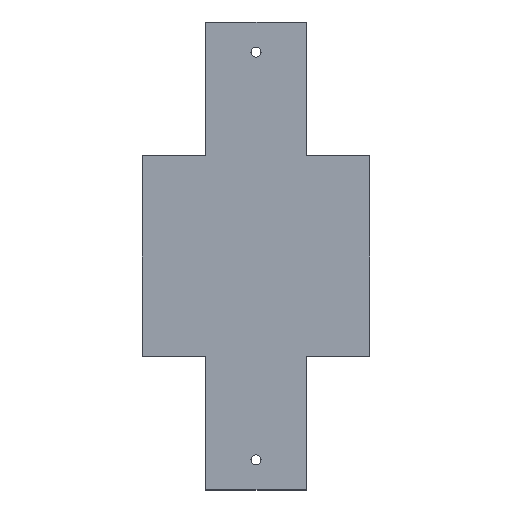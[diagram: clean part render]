
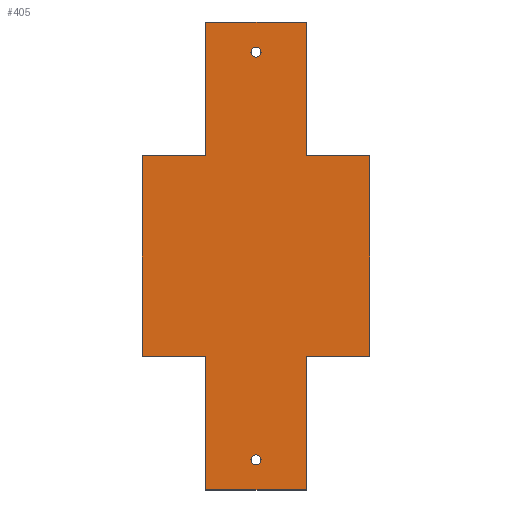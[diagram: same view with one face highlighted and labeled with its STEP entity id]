
A CAD part, top view. The second image highlights one B-rep face of the part: STEP entity #405.
In plain terms, the highlighted planar face has unit normal (0, 0, 1).
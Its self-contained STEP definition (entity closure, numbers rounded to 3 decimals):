
#1 = VERTEX_POINT ( 'NONE', #196 ) ;
#4 = EDGE_CURVE ( 'NONE', #585, #68, #584, .T. ) ;
#7 = FACE_BOUND ( 'NONE', #559, .T. ) ;
#15 = DIRECTION ( 'NONE',  ( 0., -1., 0. ) ) ;
#18 = VERTEX_POINT ( 'NONE', #580 ) ;
#21 = ORIENTED_EDGE ( 'NONE', *, *, #552, .F. ) ;
#22 = LINE ( 'NONE', #73, #464 ) ;
#25 = VERTEX_POINT ( 'NONE', #136 ) ;
#27 = EDGE_CURVE ( 'NONE', #590, #402, #442, .T. ) ;
#28 = DIRECTION ( 'NONE',  ( 1., 0., 0. ) ) ;
#48 = VERTEX_POINT ( 'NONE', #253 ) ;
#49 = FACE_BOUND ( 'NONE', #366, .T. ) ;
#52 = VECTOR ( 'NONE', #74, 1000. ) ;
#54 = PLANE ( 'NONE',  #182 ) ;
#56 = EDGE_LOOP ( 'NONE', ( #644, #351, #214, #648, #592, #494, #341, #103, #543, #386, #21, #539 ) ) ;
#61 = DIRECTION ( 'NONE',  ( 1., 0., 0. ) ) ;
#62 = VECTOR ( 'NONE', #634, 1000. ) ;
#64 = DIRECTION ( 'NONE',  ( 0., -1., 0. ) ) ;
#68 = VERTEX_POINT ( 'NONE', #203 ) ;
#69 = CARTESIAN_POINT ( 'NONE',  ( -7.5, -35., 0.13 ) ) ;
#70 = DIRECTION ( 'NONE',  ( 0., -1., 0. ) ) ;
#73 = CARTESIAN_POINT ( 'NONE',  ( 7.5, 35., 0.13 ) ) ;
#74 = DIRECTION ( 'NONE',  ( -1., 0., 0. ) ) ;
#81 = CARTESIAN_POINT ( 'NONE',  ( 7.5, -35., 0.13 ) ) ;
#89 = EDGE_CURVE ( 'NONE', #402, #338, #261, .T. ) ;
#94 = VERTEX_POINT ( 'NONE', #401 ) ;
#100 = CIRCLE ( 'NONE', #165, 0.75 ) ;
#101 = AXIS2_PLACEMENT_3D ( 'NONE', #560, #564, #221 ) ;
#103 = ORIENTED_EDGE ( 'NONE', *, *, #27, .F. ) ;
#104 = CARTESIAN_POINT ( 'NONE',  ( 7.5, 35., 0.13 ) ) ;
#107 = DIRECTION ( 'NONE',  ( -1., 0., 0. ) ) ;
#124 = CARTESIAN_POINT ( 'NONE',  ( 0., 30.5, 0.13 ) ) ;
#129 = EDGE_CURVE ( 'NONE', #390, #25, #100, .T. ) ;
#136 = CARTESIAN_POINT ( 'NONE',  ( 0.75, 30.5, 0.13 ) ) ;
#139 = CARTESIAN_POINT ( 'NONE',  ( -38., 35., 0.13 ) ) ;
#147 = DIRECTION ( 'NONE',  ( 0., 1., 0. ) ) ;
#149 = CARTESIAN_POINT ( 'NONE',  ( -17., -15., 0.13 ) ) ;
#152 = DIRECTION ( 'NONE',  ( 1., 0., 0. ) ) ;
#164 = CARTESIAN_POINT ( 'NONE',  ( 0., 30.5, 0.13 ) ) ;
#165 = AXIS2_PLACEMENT_3D ( 'NONE', #164, #300, #61 ) ;
#179 = DIRECTION ( 'NONE',  ( 1., 0., 0. ) ) ;
#182 = AXIS2_PLACEMENT_3D ( 'NONE', #484, #349, #544 ) ;
#185 = ORIENTED_EDGE ( 'NONE', *, *, #396, .F. ) ;
#190 = LINE ( 'NONE', #337, #489 ) ;
#196 = CARTESIAN_POINT ( 'NONE',  ( -0.75, -30.5, 0.13 ) ) ;
#201 = VERTEX_POINT ( 'NONE', #227 ) ;
#203 = CARTESIAN_POINT ( 'NONE',  ( -7.5, -15., 0.13 ) ) ;
#214 = ORIENTED_EDGE ( 'NONE', *, *, #485, .F. ) ;
#221 = DIRECTION ( 'NONE',  ( -1., 0., 0. ) ) ;
#223 = CARTESIAN_POINT ( 'NONE',  ( -7.5, 35., 0.13 ) ) ;
#226 = VECTOR ( 'NONE', #540, 1000. ) ;
#227 = CARTESIAN_POINT ( 'NONE',  ( -17., 15., 0.13 ) ) ;
#232 = VECTOR ( 'NONE', #64, 1000. ) ;
#235 = VECTOR ( 'NONE', #147, 1000. ) ;
#236 = CARTESIAN_POINT ( 'NONE',  ( 17., -15., 0.13 ) ) ;
#253 = CARTESIAN_POINT ( 'NONE',  ( 17., 15., 0.13 ) ) ;
#261 = LINE ( 'NONE', #551, #441 ) ;
#269 = VERTEX_POINT ( 'NONE', #426 ) ;
#289 = EDGE_CURVE ( 'NONE', #455, #269, #435, .T. ) ;
#291 = FACE_OUTER_BOUND ( 'NONE', #56, .T. ) ;
#293 = ORIENTED_EDGE ( 'NONE', *, *, #572, .F. ) ;
#296 = CIRCLE ( 'NONE', #101, 0.75 ) ;
#300 = DIRECTION ( 'NONE',  ( 0., 0., 1. ) ) ;
#314 = LINE ( 'NONE', #223, #577 ) ;
#330 = EDGE_CURVE ( 'NONE', #535, #48, #190, .T. ) ;
#337 = CARTESIAN_POINT ( 'NONE',  ( 17., 15., 0.13 ) ) ;
#338 = VERTEX_POINT ( 'NONE', #81 ) ;
#341 = ORIENTED_EDGE ( 'NONE', *, *, #89, .F. ) ;
#349 = DIRECTION ( 'NONE',  ( 0., 0., 1. ) ) ;
#351 = ORIENTED_EDGE ( 'NONE', *, *, #471, .F. ) ;
#365 = EDGE_CURVE ( 'NONE', #68, #94, #473, .T. ) ;
#366 = EDGE_LOOP ( 'NONE', ( #293, #185 ) ) ;
#374 = CARTESIAN_POINT ( 'NONE',  ( -17., -15., 0.13 ) ) ;
#385 = CARTESIAN_POINT ( 'NONE',  ( -7.5, -35., 0.13 ) ) ;
#386 = ORIENTED_EDGE ( 'NONE', *, *, #330, .F. ) ;
#388 = LINE ( 'NONE', #591, #226 ) ;
#390 = VERTEX_POINT ( 'NONE', #606 ) ;
#395 = CARTESIAN_POINT ( 'NONE',  ( 0., -30.5, 0.13 ) ) ;
#396 = EDGE_CURVE ( 'NONE', #1, #593, #470, .T. ) ;
#399 = CARTESIAN_POINT ( 'NONE',  ( 7.5, -15., 0.13 ) ) ;
#401 = CARTESIAN_POINT ( 'NONE',  ( -17., -15., 0.13 ) ) ;
#402 = VERTEX_POINT ( 'NONE', #399 ) ;
#405 = ADVANCED_FACE ( 'NONE', ( #7, #49, #291 ), #54, .T. ) ;
#419 = LINE ( 'NONE', #624, #232 ) ;
#426 = CARTESIAN_POINT ( 'NONE',  ( -7.5, 35., 0.13 ) ) ;
#435 = LINE ( 'NONE', #139, #62 ) ;
#438 = DIRECTION ( 'NONE',  ( 0., 0., 1. ) ) ;
#441 = VECTOR ( 'NONE', #70, 1000. ) ;
#442 = LINE ( 'NONE', #236, #561 ) ;
#447 = DIRECTION ( 'NONE',  ( 0., 1., 0. ) ) ;
#455 = VERTEX_POINT ( 'NONE', #104 ) ;
#456 = CARTESIAN_POINT ( 'NONE',  ( 17., -15., 0.13 ) ) ;
#462 = AXIS2_PLACEMENT_3D ( 'NONE', #395, #438, #107 ) ;
#464 = VECTOR ( 'NONE', #15, 1000. ) ;
#465 = ORIENTED_EDGE ( 'NONE', *, *, #129, .F. ) ;
#467 = DIRECTION ( 'NONE',  ( 0., 0., 1. ) ) ;
#470 = CIRCLE ( 'NONE', #462, 0.75 ) ;
#471 = EDGE_CURVE ( 'NONE', #201, #18, #388, .T. ) ;
#473 = LINE ( 'NONE', #374, #52 ) ;
#478 = EDGE_CURVE ( 'NONE', #585, #338, #594, .T. ) ;
#484 = CARTESIAN_POINT ( 'NONE',  ( 0., 0., 0.13 ) ) ;
#485 = EDGE_CURVE ( 'NONE', #94, #201, #495, .T. ) ;
#489 = VECTOR ( 'NONE', #179, 1000. ) ;
#494 = ORIENTED_EDGE ( 'NONE', *, *, #478, .T. ) ;
#495 = LINE ( 'NONE', #149, #637 ) ;
#510 = DIRECTION ( 'NONE',  ( 0., 1., 0. ) ) ;
#529 = DIRECTION ( 'NONE',  ( -1., 0., 0. ) ) ;
#535 = VERTEX_POINT ( 'NONE', #620 ) ;
#539 = ORIENTED_EDGE ( 'NONE', *, *, #289, .T. ) ;
#540 = DIRECTION ( 'NONE',  ( 1., 0., 0. ) ) ;
#541 = EDGE_CURVE ( 'NONE', #18, #269, #314, .T. ) ;
#543 = ORIENTED_EDGE ( 'NONE', *, *, #632, .F. ) ;
#544 = DIRECTION ( 'NONE',  ( 1., 0., 0. ) ) ;
#551 = CARTESIAN_POINT ( 'NONE',  ( 7.5, -35., 0.13 ) ) ;
#552 = EDGE_CURVE ( 'NONE', #455, #535, #22, .T. ) ;
#559 = EDGE_LOOP ( 'NONE', ( #611, #465 ) ) ;
#560 = CARTESIAN_POINT ( 'NONE',  ( 0., -30.5, 0.13 ) ) ;
#561 = VECTOR ( 'NONE', #529, 1000. ) ;
#564 = DIRECTION ( 'NONE',  ( 0., 0., 1. ) ) ;
#572 = EDGE_CURVE ( 'NONE', #593, #1, #296, .T. ) ;
#577 = VECTOR ( 'NONE', #510, 1000. ) ;
#580 = CARTESIAN_POINT ( 'NONE',  ( -7.5, 15., 0.13 ) ) ;
#584 = LINE ( 'NONE', #385, #235 ) ;
#585 = VERTEX_POINT ( 'NONE', #69 ) ;
#589 = VECTOR ( 'NONE', #152, 1000. ) ;
#590 = VERTEX_POINT ( 'NONE', #456 ) ;
#591 = CARTESIAN_POINT ( 'NONE',  ( -17., 15., 0.13 ) ) ;
#592 = ORIENTED_EDGE ( 'NONE', *, *, #4, .F. ) ;
#593 = VERTEX_POINT ( 'NONE', #615 ) ;
#594 = LINE ( 'NONE', #597, #589 ) ;
#597 = CARTESIAN_POINT ( 'NONE',  ( -38., -35., 0.13 ) ) ;
#599 = CIRCLE ( 'NONE', #613, 0.75 ) ;
#606 = CARTESIAN_POINT ( 'NONE',  ( -0.75, 30.5, 0.13 ) ) ;
#610 = EDGE_CURVE ( 'NONE', #25, #390, #599, .T. ) ;
#611 = ORIENTED_EDGE ( 'NONE', *, *, #610, .F. ) ;
#613 = AXIS2_PLACEMENT_3D ( 'NONE', #124, #467, #28 ) ;
#615 = CARTESIAN_POINT ( 'NONE',  ( 0.75, -30.5, 0.13 ) ) ;
#620 = CARTESIAN_POINT ( 'NONE',  ( 7.5, 15., 0.13 ) ) ;
#624 = CARTESIAN_POINT ( 'NONE',  ( 17., -15., 0.13 ) ) ;
#632 = EDGE_CURVE ( 'NONE', #48, #590, #419, .T. ) ;
#634 = DIRECTION ( 'NONE',  ( -1., 0., 0. ) ) ;
#637 = VECTOR ( 'NONE', #447, 1000. ) ;
#644 = ORIENTED_EDGE ( 'NONE', *, *, #541, .F. ) ;
#648 = ORIENTED_EDGE ( 'NONE', *, *, #365, .F. ) ;
